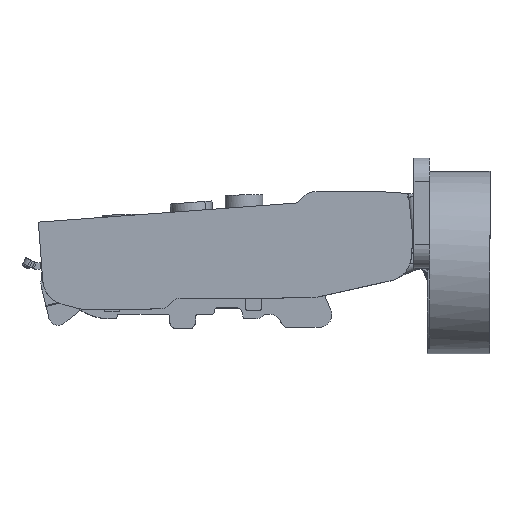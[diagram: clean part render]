
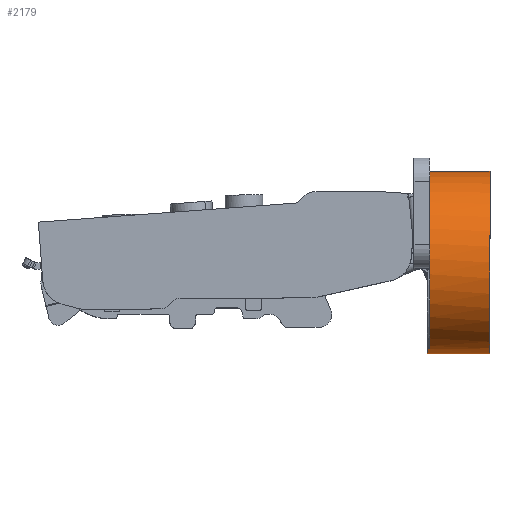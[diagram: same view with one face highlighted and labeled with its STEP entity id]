
A CAD part, top view. The second image highlights one B-rep face of the part: STEP entity #2179.
In plain terms, the highlighted cylindrical face has radius 17.4 mm (diameter 34.8 mm), a partial arc.
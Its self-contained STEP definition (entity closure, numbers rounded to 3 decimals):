
#16 = CARTESIAN_POINT ( 'NONE',  ( 38.085, -1.264, 7.368 ) ) ;
#169 = DIRECTION ( 'NONE',  ( 1., 0., 0. ) ) ;
#255 = EDGE_CURVE ( 'NONE', #10614, #4176, #793, .T. ) ;
#339 = CARTESIAN_POINT ( 'NONE',  ( 50., -2.9, 0. ) ) ;
#376 = CARTESIAN_POINT ( 'NONE',  ( 38.119, -1.386, 7.1 ) ) ;
#487 = VERTEX_POINT ( 'NONE', #376 ) ;
#567 = CARTESIAN_POINT ( 'NONE',  ( -11.215, -1.386, 7.1 ) ) ;
#793 = CIRCLE ( 'NONE', #3418, 17.4 ) ;
#820 = DIRECTION ( 'NONE',  ( 1., 0., 0. ) ) ;
#963 = LINE ( 'NONE', #9683, #3141 ) ;
#1058 = CARTESIAN_POINT ( 'NONE',  ( 38.5, 31.9, 0. ) ) ;
#1202 = FACE_OUTER_BOUND ( 'NONE', #9841, .T. ) ;
#1908 = ORIENTED_EDGE ( 'NONE', *, *, #8786, .F. ) ;
#1938 = VECTOR ( 'NONE', #5294, 1000. ) ;
#2033 = CIRCLE ( 'NONE', #6053, 17.4 ) ;
#2179 = ADVANCED_FACE ( 'NONE', ( #1202 ), #5028, .T. ) ;
#2524 = CARTESIAN_POINT ( 'NONE',  ( -11.215, -2.9, 0. ) ) ;
#2589 = ORIENTED_EDGE ( 'NONE', *, *, #6149, .F. ) ;
#2662 = ORIENTED_EDGE ( 'NONE', *, *, #255, .T. ) ;
#2998 = EDGE_CURVE ( 'NONE', #7611, #8747, #2033, .T. ) ;
#3065 = B_SPLINE_CURVE_WITH_KNOTS ( 'NONE', 3,
 ( #8552, #7479, #11312, #12389 ),
 .UNSPECIFIED., .F., .F.,
 ( 4, 4 ),
 ( 0., 0.001 ),
 .UNSPECIFIED. ) ;
#3141 = VECTOR ( 'NONE', #9500, 1000. ) ;
#3418 = AXIS2_PLACEMENT_3D ( 'NONE', #7481, #7252, #10076 ) ;
#3712 = EDGE_CURVE ( 'NONE', #8747, #7167, #9931, .T. ) ;
#3877 = DIRECTION ( 'NONE',  ( 0., 1., 0. ) ) ;
#3948 = VECTOR ( 'NONE', #11118, 1000. ) ;
#4176 = VERTEX_POINT ( 'NONE', #11110 ) ;
#4223 = LINE ( 'NONE', #8297, #1938 ) ;
#4606 = ORIENTED_EDGE ( 'NONE', *, *, #11625, .F. ) ;
#4625 = ORIENTED_EDGE ( 'NONE', *, *, #10205, .F. ) ;
#4819 = VERTEX_POINT ( 'NONE', #11891 ) ;
#4850 = CARTESIAN_POINT ( 'NONE',  ( 38.105, -1.325, 7.235 ) ) ;
#5028 = CYLINDRICAL_SURFACE ( 'NONE', #11834, 17.4 ) ;
#5167 = B_SPLINE_CURVE_WITH_KNOTS ( 'NONE', 3,
 ( #5732, #16, #4850, #10629 ),
 .UNSPECIFIED., .F., .F.,
 ( 4, 4 ),
 ( 0.001, 0.001 ),
 .UNSPECIFIED. ) ;
#5294 = DIRECTION ( 'NONE',  ( 1., 0., 0. ) ) ;
#5341 = LINE ( 'NONE', #567, #3948 ) ;
#5534 = CARTESIAN_POINT ( 'NONE',  ( 50., 31.9, 0. ) ) ;
#5732 = CARTESIAN_POINT ( 'NONE',  ( 38.065, -1.201, 7.5 ) ) ;
#6053 = AXIS2_PLACEMENT_3D ( 'NONE', #11076, #820, #12193 ) ;
#6071 = VERTEX_POINT ( 'NONE', #5534 ) ;
#6149 = EDGE_CURVE ( 'NONE', #11984, #487, #5167, .T. ) ;
#6237 = CARTESIAN_POINT ( 'NONE',  ( 38., -0.891, 8.117 ) ) ;
#6589 = DIRECTION ( 'NONE',  ( 1., 0., 0. ) ) ;
#6950 = CARTESIAN_POINT ( 'NONE',  ( 50., 14.5, 0. ) ) ;
#7167 = VERTEX_POINT ( 'NONE', #339 ) ;
#7252 = DIRECTION ( 'NONE',  ( 1., 0., 0. ) ) ;
#7437 = EDGE_CURVE ( 'NONE', #7611, #4819, #3065, .T. ) ;
#7479 = CARTESIAN_POINT ( 'NONE',  ( 38., -0.999, 7.912 ) ) ;
#7481 = CARTESIAN_POINT ( 'NONE',  ( 38.5, 14.5, 0. ) ) ;
#7611 = VERTEX_POINT ( 'NONE', #6237 ) ;
#7735 = ORIENTED_EDGE ( 'NONE', *, *, #10360, .T. ) ;
#7905 = ORIENTED_EDGE ( 'NONE', *, *, #2998, .T. ) ;
#7916 = CARTESIAN_POINT ( 'NONE',  ( -11.215, 14.5, 0. ) ) ;
#8181 = AXIS2_PLACEMENT_3D ( 'NONE', #6950, #169, #3877 ) ;
#8297 = CARTESIAN_POINT ( 'NONE',  ( -11.215, 31.9, 0. ) ) ;
#8552 = CARTESIAN_POINT ( 'NONE',  ( 38., -0.891, 8.117 ) ) ;
#8747 = VERTEX_POINT ( 'NONE', #11073 ) ;
#8786 = EDGE_CURVE ( 'NONE', #10614, #6071, #4223, .T. ) ;
#8982 = ORIENTED_EDGE ( 'NONE', *, *, #3712, .T. ) ;
#9500 = DIRECTION ( 'NONE',  ( 1., 0., 0. ) ) ;
#9683 = CARTESIAN_POINT ( 'NONE',  ( 28.5, -1.201, 7.5 ) ) ;
#9841 = EDGE_LOOP ( 'NONE', ( #7905, #8982, #4606, #1908, #2662, #7735, #2589, #4625, #12373 ) ) ;
#9860 = DIRECTION ( 'NONE',  ( 0., 1., 0. ) ) ;
#9862 = VECTOR ( 'NONE', #6589, 1000. ) ;
#9931 = LINE ( 'NONE', #2524, #9862 ) ;
#10076 = DIRECTION ( 'NONE',  ( 0., 1., 0. ) ) ;
#10178 = CIRCLE ( 'NONE', #8181, 17.4 ) ;
#10205 = EDGE_CURVE ( 'NONE', #4819, #11984, #963, .T. ) ;
#10360 = EDGE_CURVE ( 'NONE', #4176, #487, #5341, .T. ) ;
#10614 = VERTEX_POINT ( 'NONE', #1058 ) ;
#10629 = CARTESIAN_POINT ( 'NONE',  ( 38.119, -1.386, 7.1 ) ) ;
#11073 = CARTESIAN_POINT ( 'NONE',  ( 38., -2.9, 0. ) ) ;
#11076 = CARTESIAN_POINT ( 'NONE',  ( 38., 14.5, 0. ) ) ;
#11110 = CARTESIAN_POINT ( 'NONE',  ( 38.5, -1.386, 7.1 ) ) ;
#11118 = DIRECTION ( 'NONE',  ( -1., 0., 0. ) ) ;
#11312 = CARTESIAN_POINT ( 'NONE',  ( 38.026, -1.102, 7.707 ) ) ;
#11625 = EDGE_CURVE ( 'NONE', #6071, #7167, #10178, .T. ) ;
#11748 = DIRECTION ( 'NONE',  ( 1., 0., 0. ) ) ;
#11834 = AXIS2_PLACEMENT_3D ( 'NONE', #7916, #11748, #9860 ) ;
#11891 = CARTESIAN_POINT ( 'NONE',  ( 38.053, -1.201, 7.5 ) ) ;
#11984 = VERTEX_POINT ( 'NONE', #12093 ) ;
#12093 = CARTESIAN_POINT ( 'NONE',  ( 38.065, -1.201, 7.5 ) ) ;
#12193 = DIRECTION ( 'NONE',  ( 0., -1., 0. ) ) ;
#12373 = ORIENTED_EDGE ( 'NONE', *, *, #7437, .F. ) ;
#12389 = CARTESIAN_POINT ( 'NONE',  ( 38.053, -1.201, 7.5 ) ) ;
